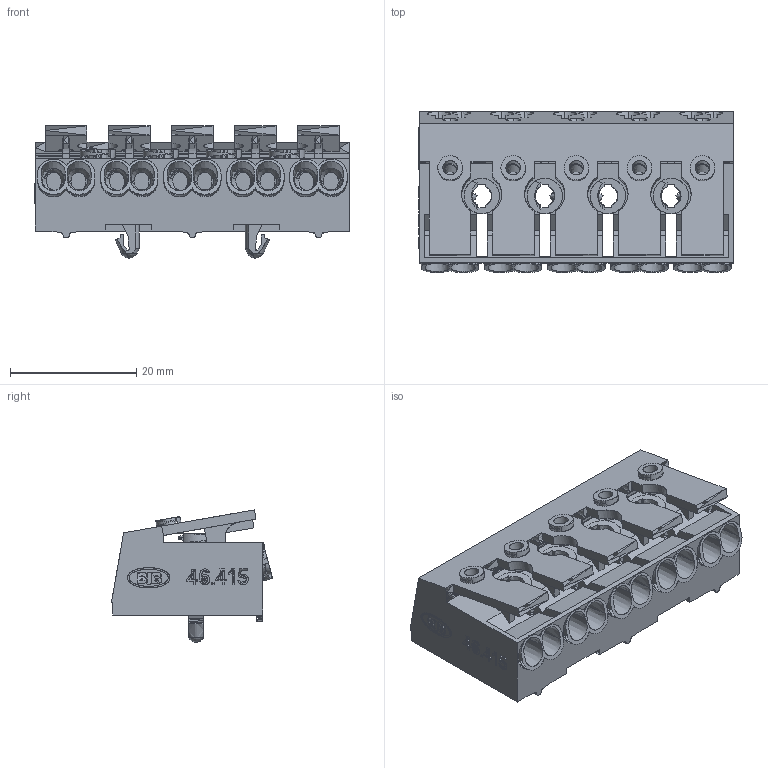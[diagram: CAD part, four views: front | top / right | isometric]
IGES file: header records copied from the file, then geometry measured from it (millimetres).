
Global section: file name: C:\Programme\core_technologie\in\006YK03Y09.igs; native system: CT CoreTechnologie 3D Evolution; preprocessor: 2006; author: assmuth; date: 090304.074058; units: millimetre
Bounding box: 49.9 x 25.55 x 20.98 mm (x, y, z)
Surface area: 9076.7 mm2 (no closed solid volume)
Topology: 0 solids, 0 shells, 652 faces, 3460 edges, 3392 vertices
Faces by surface type: bspline 652
